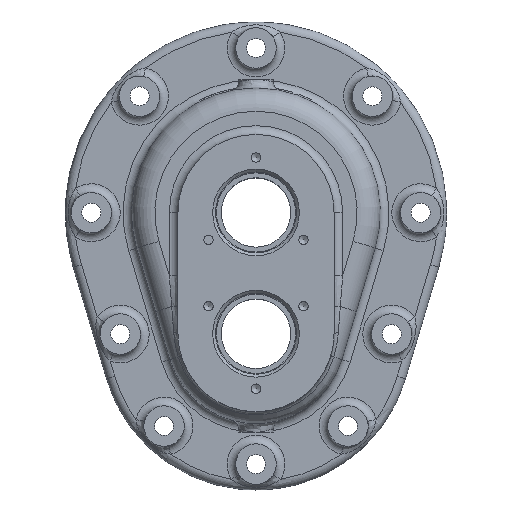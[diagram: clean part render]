
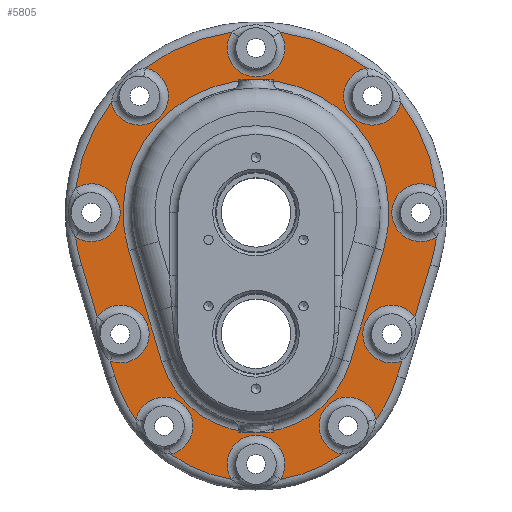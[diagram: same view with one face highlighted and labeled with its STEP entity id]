
A CAD part, top view. The second image highlights one B-rep face of the part: STEP entity #5805.
In plain terms, the highlighted planar face has unit normal (0, 0, 1).
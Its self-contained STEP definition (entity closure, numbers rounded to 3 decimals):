
#96=FACE_BOUND('',#966,.T.);
#322=PLANE('',#6251);
#577=FACE_OUTER_BOUND('',#965,.T.);
#965=EDGE_LOOP('',(#4974,#4975,#4976,#4977,#4978,#4979,#4980,#4981,#4982,
#4983,#4984,#4985,#4986,#4987,#4988,#4989,#4990,#4991,#4992,#4993,#4994,
#4995,#4996,#4997));
#966=EDGE_LOOP('',(#4998,#4999,#5000,#5001));
#1619=LINE('',#11254,#1972);
#1620=LINE('',#11258,#1973);
#1621=LINE('',#11282,#1974);
#1622=LINE('',#11286,#1975);
#1623=LINE('',#11294,#1976);
#1624=LINE('',#11298,#1977);
#1972=VECTOR('',#7408,10.);
#1973=VECTOR('',#7411,10.);
#1974=VECTOR('',#7434,10.);
#1975=VECTOR('',#7437,10.);
#1976=VECTOR('',#7444,10.);
#1977=VECTOR('',#7447,10.);
#2190=CIRCLE('',#6250,10.);
#2191=CIRCLE('',#6252,51.);
#2192=CIRCLE('',#6253,10.);
#2193=CIRCLE('',#6254,51.);
#2194=CIRCLE('',#6255,10.);
#2195=CIRCLE('',#6256,63.);
#2196=CIRCLE('',#6257,10.);
#2197=CIRCLE('',#6258,63.);
#2198=CIRCLE('',#6259,10.);
#2199=CIRCLE('',#6260,63.);
#2200=CIRCLE('',#6261,10.);
#2201=CIRCLE('',#6262,63.);
#2202=CIRCLE('',#6263,10.);
#2203=CIRCLE('',#6264,63.);
#2204=CIRCLE('',#6265,10.);
#2205=CIRCLE('',#6266,63.);
#2206=CIRCLE('',#6267,10.);
#2207=CIRCLE('',#6268,51.);
#2208=CIRCLE('',#6269,10.);
#2209=CIRCLE('',#6270,51.);
#2210=CIRCLE('',#6271,34.);
#2211=CIRCLE('',#6272,46.);
#2759=VERTEX_POINT('',#11168);
#2762=VERTEX_POINT('',#11173);
#2763=VERTEX_POINT('',#11247);
#2764=VERTEX_POINT('',#11249);
#2765=VERTEX_POINT('',#11251);
#2766=VERTEX_POINT('',#11253);
#2767=VERTEX_POINT('',#11255);
#2768=VERTEX_POINT('',#11257);
#2769=VERTEX_POINT('',#11259);
#2770=VERTEX_POINT('',#11261);
#2771=VERTEX_POINT('',#11263);
#2772=VERTEX_POINT('',#11265);
#2773=VERTEX_POINT('',#11267);
#2774=VERTEX_POINT('',#11269);
#2775=VERTEX_POINT('',#11271);
#2776=VERTEX_POINT('',#11273);
#2777=VERTEX_POINT('',#11275);
#2778=VERTEX_POINT('',#11277);
#2779=VERTEX_POINT('',#11279);
#2780=VERTEX_POINT('',#11281);
#2781=VERTEX_POINT('',#11283);
#2782=VERTEX_POINT('',#11285);
#2783=VERTEX_POINT('',#11287);
#2784=VERTEX_POINT('',#11289);
#2785=VERTEX_POINT('',#11292);
#2786=VERTEX_POINT('',#11293);
#2787=VERTEX_POINT('',#11295);
#2788=VERTEX_POINT('',#11297);
#3518=EDGE_CURVE('',#2762,#2759,#2190,.T.);
#3521=EDGE_CURVE('',#2763,#2762,#2191,.T.);
#3522=EDGE_CURVE('',#2764,#2763,#2192,.T.);
#3523=EDGE_CURVE('',#2765,#2764,#2193,.T.);
#3524=EDGE_CURVE('',#2766,#2765,#1619,.T.);
#3525=EDGE_CURVE('',#2767,#2766,#2194,.T.);
#3526=EDGE_CURVE('',#2768,#2767,#1620,.T.);
#3527=EDGE_CURVE('',#2769,#2768,#2195,.T.);
#3528=EDGE_CURVE('',#2770,#2769,#2196,.T.);
#3529=EDGE_CURVE('',#2771,#2770,#2197,.T.);
#3530=EDGE_CURVE('',#2772,#2771,#2198,.T.);
#3531=EDGE_CURVE('',#2773,#2772,#2199,.T.);
#3532=EDGE_CURVE('',#2774,#2773,#2200,.T.);
#3533=EDGE_CURVE('',#2775,#2774,#2201,.T.);
#3534=EDGE_CURVE('',#2776,#2775,#2202,.T.);
#3535=EDGE_CURVE('',#2777,#2776,#2203,.T.);
#3536=EDGE_CURVE('',#2778,#2777,#2204,.T.);
#3537=EDGE_CURVE('',#2779,#2778,#2205,.T.);
#3538=EDGE_CURVE('',#2780,#2779,#1621,.T.);
#3539=EDGE_CURVE('',#2781,#2780,#2206,.T.);
#3540=EDGE_CURVE('',#2782,#2781,#1622,.T.);
#3541=EDGE_CURVE('',#2783,#2782,#2207,.T.);
#3542=EDGE_CURVE('',#2784,#2783,#2208,.T.);
#3543=EDGE_CURVE('',#2759,#2784,#2209,.T.);
#3544=EDGE_CURVE('',#2785,#2786,#1623,.T.);
#3545=EDGE_CURVE('',#2787,#2785,#2210,.T.);
#3546=EDGE_CURVE('',#2788,#2787,#1624,.T.);
#3547=EDGE_CURVE('',#2786,#2788,#2211,.T.);
#4974=ORIENTED_EDGE('',*,*,#3518,.F.);
#4975=ORIENTED_EDGE('',*,*,#3521,.F.);
#4976=ORIENTED_EDGE('',*,*,#3522,.F.);
#4977=ORIENTED_EDGE('',*,*,#3523,.F.);
#4978=ORIENTED_EDGE('',*,*,#3524,.F.);
#4979=ORIENTED_EDGE('',*,*,#3525,.F.);
#4980=ORIENTED_EDGE('',*,*,#3526,.F.);
#4981=ORIENTED_EDGE('',*,*,#3527,.F.);
#4982=ORIENTED_EDGE('',*,*,#3528,.F.);
#4983=ORIENTED_EDGE('',*,*,#3529,.F.);
#4984=ORIENTED_EDGE('',*,*,#3530,.F.);
#4985=ORIENTED_EDGE('',*,*,#3531,.F.);
#4986=ORIENTED_EDGE('',*,*,#3532,.F.);
#4987=ORIENTED_EDGE('',*,*,#3533,.F.);
#4988=ORIENTED_EDGE('',*,*,#3534,.F.);
#4989=ORIENTED_EDGE('',*,*,#3535,.F.);
#4990=ORIENTED_EDGE('',*,*,#3536,.F.);
#4991=ORIENTED_EDGE('',*,*,#3537,.F.);
#4992=ORIENTED_EDGE('',*,*,#3538,.F.);
#4993=ORIENTED_EDGE('',*,*,#3539,.F.);
#4994=ORIENTED_EDGE('',*,*,#3540,.F.);
#4995=ORIENTED_EDGE('',*,*,#3541,.F.);
#4996=ORIENTED_EDGE('',*,*,#3542,.F.);
#4997=ORIENTED_EDGE('',*,*,#3543,.F.);
#4998=ORIENTED_EDGE('',*,*,#3544,.F.);
#4999=ORIENTED_EDGE('',*,*,#3545,.F.);
#5000=ORIENTED_EDGE('',*,*,#3546,.F.);
#5001=ORIENTED_EDGE('',*,*,#3547,.F.);
#5805=ADVANCED_FACE('',(#577,#96),#322,.T.);
#6250=AXIS2_PLACEMENT_3D('',#11175,#7398,#7399);
#6251=AXIS2_PLACEMENT_3D('',#11246,#7400,#7401);
#6252=AXIS2_PLACEMENT_3D('',#11248,#7402,#7403);
#6253=AXIS2_PLACEMENT_3D('',#11250,#7404,#7405);
#6254=AXIS2_PLACEMENT_3D('',#11252,#7406,#7407);
#6255=AXIS2_PLACEMENT_3D('',#11256,#7409,#7410);
#6256=AXIS2_PLACEMENT_3D('',#11260,#7412,#7413);
#6257=AXIS2_PLACEMENT_3D('',#11262,#7414,#7415);
#6258=AXIS2_PLACEMENT_3D('',#11264,#7416,#7417);
#6259=AXIS2_PLACEMENT_3D('',#11266,#7418,#7419);
#6260=AXIS2_PLACEMENT_3D('',#11268,#7420,#7421);
#6261=AXIS2_PLACEMENT_3D('',#11270,#7422,#7423);
#6262=AXIS2_PLACEMENT_3D('',#11272,#7424,#7425);
#6263=AXIS2_PLACEMENT_3D('',#11274,#7426,#7427);
#6264=AXIS2_PLACEMENT_3D('',#11276,#7428,#7429);
#6265=AXIS2_PLACEMENT_3D('',#11278,#7430,#7431);
#6266=AXIS2_PLACEMENT_3D('',#11280,#7432,#7433);
#6267=AXIS2_PLACEMENT_3D('',#11284,#7435,#7436);
#6268=AXIS2_PLACEMENT_3D('',#11288,#7438,#7439);
#6269=AXIS2_PLACEMENT_3D('',#11290,#7440,#7441);
#6270=AXIS2_PLACEMENT_3D('',#11291,#7442,#7443);
#6271=AXIS2_PLACEMENT_3D('',#11296,#7445,#7446);
#6272=AXIS2_PLACEMENT_3D('',#11299,#7448,#7449);
#7398=DIRECTION('center_axis',(0.,0.,1.));
#7399=DIRECTION('ref_axis',(0.,1.,0.));
#7400=DIRECTION('center_axis',(0.,0.,1.));
#7401=DIRECTION('ref_axis',(1.,0.,0.));
#7402=DIRECTION('center_axis',(0.,0.,-1.));
#7403=DIRECTION('ref_axis',(0.,-1.,0.));
#7404=DIRECTION('center_axis',(0.,0.,1.));
#7405=DIRECTION('ref_axis',(-0.707,0.707,0.));
#7406=DIRECTION('center_axis',(0.,0.,-1.));
#7407=DIRECTION('ref_axis',(0.,-1.,0.));
#7408=DIRECTION('',(-0.286,-0.958,0.));
#7409=DIRECTION('center_axis',(0.,0.,1.));
#7410=DIRECTION('ref_axis',(-0.958,0.286,0.));
#7411=DIRECTION('',(-0.286,-0.958,0.));
#7412=DIRECTION('center_axis',(0.,0.,-1.));
#7413=DIRECTION('ref_axis',(0.,1.,0.));
#7414=DIRECTION('center_axis',(0.,0.,1.));
#7415=DIRECTION('ref_axis',(-1.,0.,0.));
#7416=DIRECTION('center_axis',(0.,0.,-1.));
#7417=DIRECTION('ref_axis',(0.,1.,0.));
#7418=DIRECTION('center_axis',(0.,0.,1.));
#7419=DIRECTION('ref_axis',(-0.707,-0.707,0.));
#7420=DIRECTION('center_axis',(0.,0.,-1.));
#7421=DIRECTION('ref_axis',(0.,1.,0.));
#7422=DIRECTION('center_axis',(0.,0.,1.));
#7423=DIRECTION('ref_axis',(0.,-1.,0.));
#7424=DIRECTION('center_axis',(0.,0.,-1.));
#7425=DIRECTION('ref_axis',(0.,1.,0.));
#7426=DIRECTION('center_axis',(0.,0.,1.));
#7427=DIRECTION('ref_axis',(0.707,-0.707,0.));
#7428=DIRECTION('center_axis',(0.,0.,-1.));
#7429=DIRECTION('ref_axis',(0.,1.,0.));
#7430=DIRECTION('center_axis',(0.,0.,1.));
#7431=DIRECTION('ref_axis',(1.,0.,0.));
#7432=DIRECTION('center_axis',(0.,0.,-1.));
#7433=DIRECTION('ref_axis',(0.,1.,0.));
#7434=DIRECTION('',(-0.286,0.958,0.));
#7435=DIRECTION('center_axis',(0.,0.,1.));
#7436=DIRECTION('ref_axis',(0.958,0.286,0.));
#7437=DIRECTION('',(-0.286,0.958,0.));
#7438=DIRECTION('center_axis',(0.,0.,-1.));
#7439=DIRECTION('ref_axis',(0.,-1.,0.));
#7440=DIRECTION('center_axis',(0.,0.,1.));
#7441=DIRECTION('ref_axis',(0.707,0.707,0.));
#7442=DIRECTION('center_axis',(0.,0.,-1.));
#7443=DIRECTION('ref_axis',(0.,-1.,0.));
#7444=DIRECTION('',(0.286,0.958,0.));
#7445=DIRECTION('center_axis',(0.,0.,1.));
#7446=DIRECTION('ref_axis',(0.,-1.,0.));
#7447=DIRECTION('',(0.286,-0.958,0.));
#7448=DIRECTION('center_axis',(0.,0.,1.));
#7449=DIRECTION('ref_axis',(0.,1.,0.));
#11168=CARTESIAN_POINT('',(-8.487,-92.289,9.));
#11173=CARTESIAN_POINT('',(8.487,-92.289,9.));
#11175=CARTESIAN_POINT('Origin',(0.,-87.,9.));
#11246=CARTESIAN_POINT('Origin',(0.,-15.,9.));
#11247=CARTESIAN_POINT('',(29.558,-83.561,9.));
#11248=CARTESIAN_POINT('Origin',(0.,-42.,9.));
#11249=CARTESIAN_POINT('',(41.561,-71.558,9.));
#11250=CARTESIAN_POINT('Origin',(31.82,-73.82,9.));
#11251=CARTESIAN_POINT('',(48.874,-56.571,9.));
#11252=CARTESIAN_POINT('Origin',(0.,-42.,9.));
#11253=CARTESIAN_POINT('',(50.422,-51.381,9.));
#11254=CARTESIAN_POINT('',(52.57,-44.173,9.));
#11255=CARTESIAN_POINT('',(54.993,-36.048,9.));
#11256=CARTESIAN_POINT('Origin',(46.957,-42.,9.));
#11257=CARTESIAN_POINT('',(60.374,-18.,9.));
#11258=CARTESIAN_POINT('',(52.57,-44.173,9.));
#11259=CARTESIAN_POINT('',(62.439,-8.392,9.));
#11260=CARTESIAN_POINT('Origin',(0.,0.,9.));
#11261=CARTESIAN_POINT('',(62.439,8.392,9.));
#11262=CARTESIAN_POINT('Origin',(57.,0.,9.));
#11263=CARTESIAN_POINT('',(50.085,38.217,9.));
#11264=CARTESIAN_POINT('Origin',(0.,0.,9.));
#11265=CARTESIAN_POINT('',(38.217,50.085,9.));
#11266=CARTESIAN_POINT('Origin',(40.305,40.305,9.));
#11267=CARTESIAN_POINT('',(8.392,62.439,9.));
#11268=CARTESIAN_POINT('Origin',(0.,0.,9.));
#11269=CARTESIAN_POINT('',(-8.392,62.439,9.));
#11270=CARTESIAN_POINT('Origin',(0.,57.,9.));
#11271=CARTESIAN_POINT('',(-38.217,50.085,9.));
#11272=CARTESIAN_POINT('Origin',(0.,0.,9.));
#11273=CARTESIAN_POINT('',(-50.085,38.217,9.));
#11274=CARTESIAN_POINT('Origin',(-40.305,40.305,9.));
#11275=CARTESIAN_POINT('',(-62.439,8.392,9.));
#11276=CARTESIAN_POINT('Origin',(0.,0.,9.));
#11277=CARTESIAN_POINT('',(-62.439,-8.392,9.));
#11278=CARTESIAN_POINT('Origin',(-57.,0.,9.));
#11279=CARTESIAN_POINT('',(-60.374,-18.,9.));
#11280=CARTESIAN_POINT('Origin',(0.,0.,9.));
#11281=CARTESIAN_POINT('',(-54.993,-36.048,9.));
#11282=CARTESIAN_POINT('',(-58.32,-24.888,9.));
#11283=CARTESIAN_POINT('',(-50.422,-51.381,9.));
#11284=CARTESIAN_POINT('Origin',(-46.957,-42.,9.));
#11285=CARTESIAN_POINT('',(-48.874,-56.571,9.));
#11286=CARTESIAN_POINT('',(-58.32,-24.888,9.));
#11287=CARTESIAN_POINT('',(-41.561,-71.558,9.));
#11288=CARTESIAN_POINT('Origin',(0.,-42.,9.));
#11289=CARTESIAN_POINT('',(-29.558,-83.561,9.));
#11290=CARTESIAN_POINT('Origin',(-31.82,-73.82,9.));
#11291=CARTESIAN_POINT('Origin',(0.,-42.,9.));
#11292=CARTESIAN_POINT('',(32.583,-51.714,9.));
#11293=CARTESIAN_POINT('',(44.082,-13.143,9.));
#11294=CARTESIAN_POINT('',(36.279,-39.316,9.));
#11295=CARTESIAN_POINT('',(-32.583,-51.714,9.));
#11296=CARTESIAN_POINT('Origin',(0.,-42.,9.));
#11297=CARTESIAN_POINT('',(-44.082,-13.143,9.));
#11298=CARTESIAN_POINT('',(-42.029,-20.031,9.));
#11299=CARTESIAN_POINT('Origin',(0.,0.,9.));
